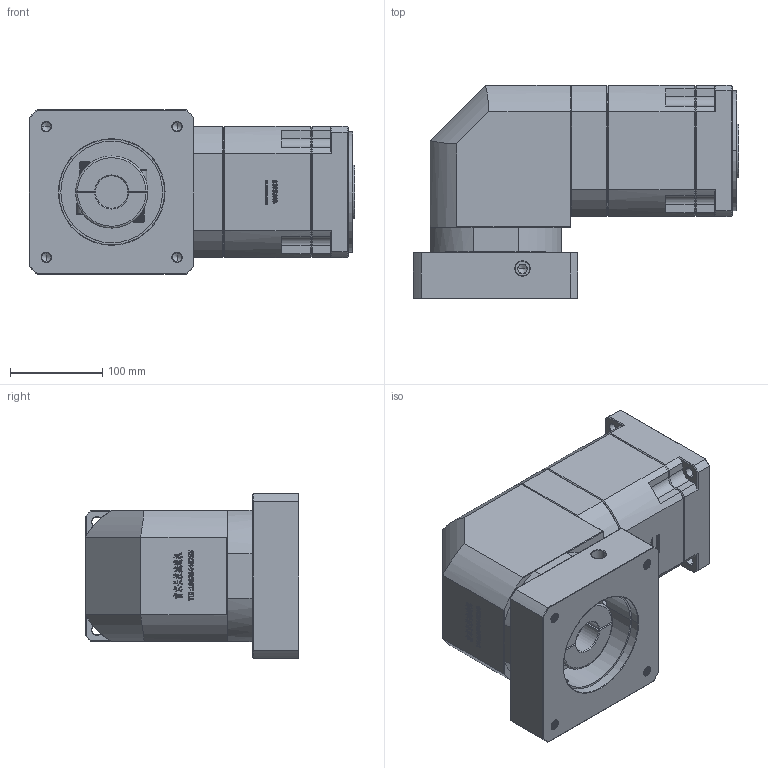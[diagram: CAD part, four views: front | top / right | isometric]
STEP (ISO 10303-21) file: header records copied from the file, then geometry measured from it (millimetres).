
FILE_DESCRIPTION (( 'STEP AP214' ), '1' );
FILE_NAME ('ZBR142A-K35-L3-35-114.3-200-M12.step', '2023-03-18T09:28:27', ( '' ), ( '' ), 'SwSTEP 2.0', 'SolidWorks 2016', '' );
FILE_SCHEMA (( 'AUTOMOTIVE_DESIGN' ));
Length unit declared in the file: millimetre
Products named in the file (1): ZBR142A-K35-L3-35-114.3-200-M12
Bounding box: 351.7 x 231 x 178 mm (x, y, z)
Volume: 7326372.9 mm3; surface area: 461529.9 mm2
Topology: 6 solids, 6 shells, 2865 faces, 7639 edges, 4922 vertices
Faces by surface type: plane 1545, bspline 585, cylinder 381, cone 334, torus 20
Entity records: 156772 total; most frequent: CARTESIAN_POINT 58289, ORIENTED_EDGE 15222, DIRECTION 11575, EDGE_CURVE 7611, VECTOR 5175, LINE 5175, VERTEX_POINT 4922, AXIS2_PLACEMENT_3D 3200
